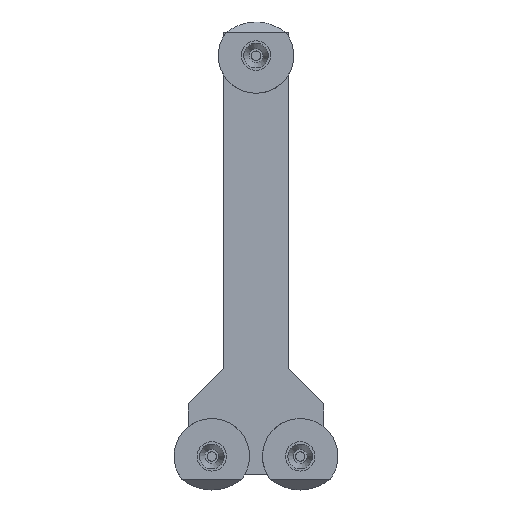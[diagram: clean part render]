
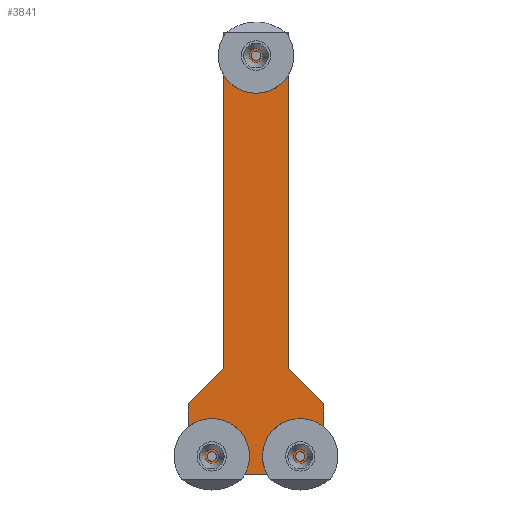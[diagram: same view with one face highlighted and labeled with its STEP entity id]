
A CAD part, top view. The second image highlights one B-rep face of the part: STEP entity #3841.
In plain terms, the highlighted planar face has unit normal (0, 0, 1).
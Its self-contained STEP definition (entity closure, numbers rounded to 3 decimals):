
#43=FACE_BOUND('',#443,.T.);
#44=FACE_BOUND('',#444,.T.);
#45=FACE_BOUND('',#445,.T.);
#55=PLANE('',#4104);
#244=FACE_OUTER_BOUND('',#442,.T.);
#442=EDGE_LOOP('',(#2710,#2711,#2712,#2713,#2714,#2715,#2716,#2717));
#443=EDGE_LOOP('',(#2718,#2719));
#444=EDGE_LOOP('',(#2720,#2721));
#445=EDGE_LOOP('',(#2722,#2723));
#654=LINE('',#5389,#1191);
#658=LINE('',#5397,#1195);
#661=LINE('',#5403,#1198);
#662=LINE('',#5405,#1199);
#663=LINE('',#5407,#1200);
#664=LINE('',#5409,#1201);
#665=LINE('',#5411,#1202);
#666=LINE('',#5412,#1203);
#1191=VECTOR('',#4370,10.);
#1195=VECTOR('',#4376,10.);
#1198=VECTOR('',#4381,10.);
#1199=VECTOR('',#4382,10.);
#1200=VECTOR('',#4383,10.);
#1201=VECTOR('',#4384,10.);
#1202=VECTOR('',#4385,10.);
#1203=VECTOR('',#4386,10.);
#1719=CIRCLE('',#4088,0.8);
#1720=CIRCLE('',#4089,0.8);
#1723=CIRCLE('',#4093,0.8);
#1724=CIRCLE('',#4094,0.8);
#1727=CIRCLE('',#4098,0.8);
#1728=CIRCLE('',#4099,0.8);
#1752=VERTEX_POINT('',#5345);
#1753=VERTEX_POINT('',#5346);
#1758=VERTEX_POINT('',#5359);
#1759=VERTEX_POINT('',#5360);
#1764=VERTEX_POINT('',#5373);
#1765=VERTEX_POINT('',#5374);
#1770=VERTEX_POINT('',#5387);
#1771=VERTEX_POINT('',#5388);
#1774=VERTEX_POINT('',#5396);
#1776=VERTEX_POINT('',#5402);
#1777=VERTEX_POINT('',#5404);
#1778=VERTEX_POINT('',#5406);
#1779=VERTEX_POINT('',#5408);
#1780=VERTEX_POINT('',#5410);
#2104=EDGE_CURVE('',#1752,#1753,#1719,.T.);
#2105=EDGE_CURVE('',#1753,#1752,#1720,.T.);
#2111=EDGE_CURVE('',#1758,#1759,#1723,.T.);
#2112=EDGE_CURVE('',#1759,#1758,#1724,.T.);
#2118=EDGE_CURVE('',#1764,#1765,#1727,.T.);
#2119=EDGE_CURVE('',#1765,#1764,#1728,.T.);
#2125=EDGE_CURVE('',#1770,#1771,#654,.T.);
#2129=EDGE_CURVE('',#1771,#1774,#658,.T.);
#2132=EDGE_CURVE('',#1770,#1776,#661,.T.);
#2133=EDGE_CURVE('',#1776,#1777,#662,.T.);
#2134=EDGE_CURVE('',#1777,#1778,#663,.T.);
#2135=EDGE_CURVE('',#1779,#1778,#664,.T.);
#2136=EDGE_CURVE('',#1780,#1779,#665,.T.);
#2137=EDGE_CURVE('',#1774,#1780,#666,.T.);
#2710=ORIENTED_EDGE('',*,*,#2125,.F.);
#2711=ORIENTED_EDGE('',*,*,#2132,.T.);
#2712=ORIENTED_EDGE('',*,*,#2133,.T.);
#2713=ORIENTED_EDGE('',*,*,#2134,.T.);
#2714=ORIENTED_EDGE('',*,*,#2135,.F.);
#2715=ORIENTED_EDGE('',*,*,#2136,.F.);
#2716=ORIENTED_EDGE('',*,*,#2137,.F.);
#2717=ORIENTED_EDGE('',*,*,#2129,.F.);
#2718=ORIENTED_EDGE('',*,*,#2104,.T.);
#2719=ORIENTED_EDGE('',*,*,#2105,.T.);
#2720=ORIENTED_EDGE('',*,*,#2111,.T.);
#2721=ORIENTED_EDGE('',*,*,#2112,.T.);
#2722=ORIENTED_EDGE('',*,*,#2118,.T.);
#2723=ORIENTED_EDGE('',*,*,#2119,.T.);
#3841=ADVANCED_FACE('',(#244,#43,#44,#45),#55,.T.);
#4088=AXIS2_PLACEMENT_3D('',#5347,#4331,#4332);
#4089=AXIS2_PLACEMENT_3D('',#5348,#4333,#4334);
#4093=AXIS2_PLACEMENT_3D('',#5361,#4344,#4345);
#4094=AXIS2_PLACEMENT_3D('',#5362,#4346,#4347);
#4098=AXIS2_PLACEMENT_3D('',#5375,#4357,#4358);
#4099=AXIS2_PLACEMENT_3D('',#5376,#4359,#4360);
#4104=AXIS2_PLACEMENT_3D('',#5401,#4379,#4380);
#4331=DIRECTION('center_axis',(0.,0.,
-1.));
#4332=DIRECTION('ref_axis',(1.,0.,0.));
#4333=DIRECTION('center_axis',(0.,0.,
-1.));
#4334=DIRECTION('ref_axis',(1.,0.,0.));
#4344=DIRECTION('center_axis',(0.,0.,
-1.));
#4345=DIRECTION('ref_axis',(1.,0.,0.));
#4346=DIRECTION('center_axis',(0.,0.,
-1.));
#4347=DIRECTION('ref_axis',(1.,0.,0.));
#4357=DIRECTION('center_axis',(0.,0.,
-1.));
#4358=DIRECTION('ref_axis',(1.,0.,0.));
#4359=DIRECTION('center_axis',(0.,0.,
-1.));
#4360=DIRECTION('ref_axis',(1.,0.,0.));
#4370=DIRECTION('',(0.707,-0.707,0.));
#4376=DIRECTION('',(0.,-1.,0.));
#4379=DIRECTION('center_axis',(0.,0.,
1.));
#4380=DIRECTION('ref_axis',(0.,-1.,0.));
#4381=DIRECTION('',(0.,1.,0.));
#4382=DIRECTION('',(-1.,0.,0.));
#4383=DIRECTION('',(0.,-1.,0.));
#4384=DIRECTION('',(0.707,0.707,0.));
#4385=DIRECTION('',(0.,1.,0.));
#4386=DIRECTION('',(-1.,0.,0.));
#5345=CARTESIAN_POINT('',(15.8,-5.,1.6));
#5346=CARTESIAN_POINT('',(14.2,-5.,1.6));
#5347=CARTESIAN_POINT('Origin',(15.,-5.,1.6));
#5348=CARTESIAN_POINT('Origin',(15.,-5.,1.6));
#5359=CARTESIAN_POINT('',(0.8,-5.,1.6));
#5360=CARTESIAN_POINT('',(-0.8,-5.,1.6));
#5361=CARTESIAN_POINT('Origin',(0.,-5.,1.6));
#5362=CARTESIAN_POINT('Origin',(0.,-5.,1.6));
#5373=CARTESIAN_POINT('',(8.3,63.,1.6));
#5374=CARTESIAN_POINT('',(6.7,63.,1.6));
#5375=CARTESIAN_POINT('Origin',(7.5,63.,1.6));
#5376=CARTESIAN_POINT('Origin',(7.5,63.,1.6));
#5387=CARTESIAN_POINT('',(13.05,9.852,1.6));
#5388=CARTESIAN_POINT('',(19.,3.902,1.6));
#5389=CARTESIAN_POINT('',(-4.225,27.127,1.6));
#5396=CARTESIAN_POINT('',(19.,-8.,1.6));
#5397=CARTESIAN_POINT('',(19.,0.,1.6));
#5401=CARTESIAN_POINT('Origin',(0.,71.852,
1.6));
#5402=CARTESIAN_POINT('',(13.05,66.852,1.6));
#5403=CARTESIAN_POINT('',(13.05,56.352,1.6));
#5404=CARTESIAN_POINT('',(1.95,66.852,1.6));
#5405=CARTESIAN_POINT('',(3.75,66.852,1.6));
#5406=CARTESIAN_POINT('',(1.95,9.852,1.6));
#5407=CARTESIAN_POINT('',(1.95,56.352,1.6));
#5408=CARTESIAN_POINT('',(-4.,3.902,1.6));
#5409=CARTESIAN_POINT('',(15.475,23.377,1.6));
#5410=CARTESIAN_POINT('',(-4.,-8.,1.6));
#5411=CARTESIAN_POINT('',(-4.,12.148,1.6));
#5412=CARTESIAN_POINT('',(3.75,-8.,1.6));
